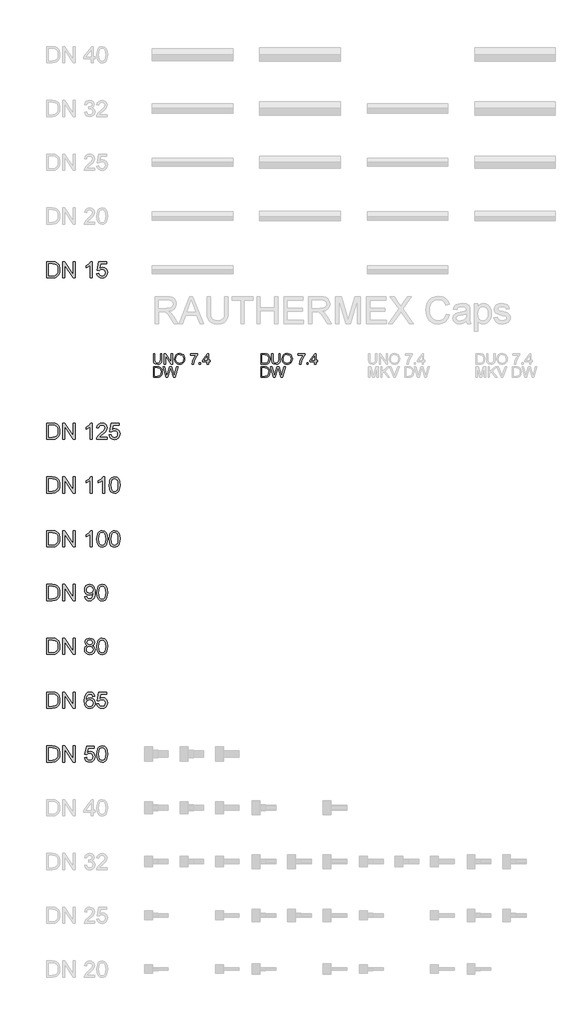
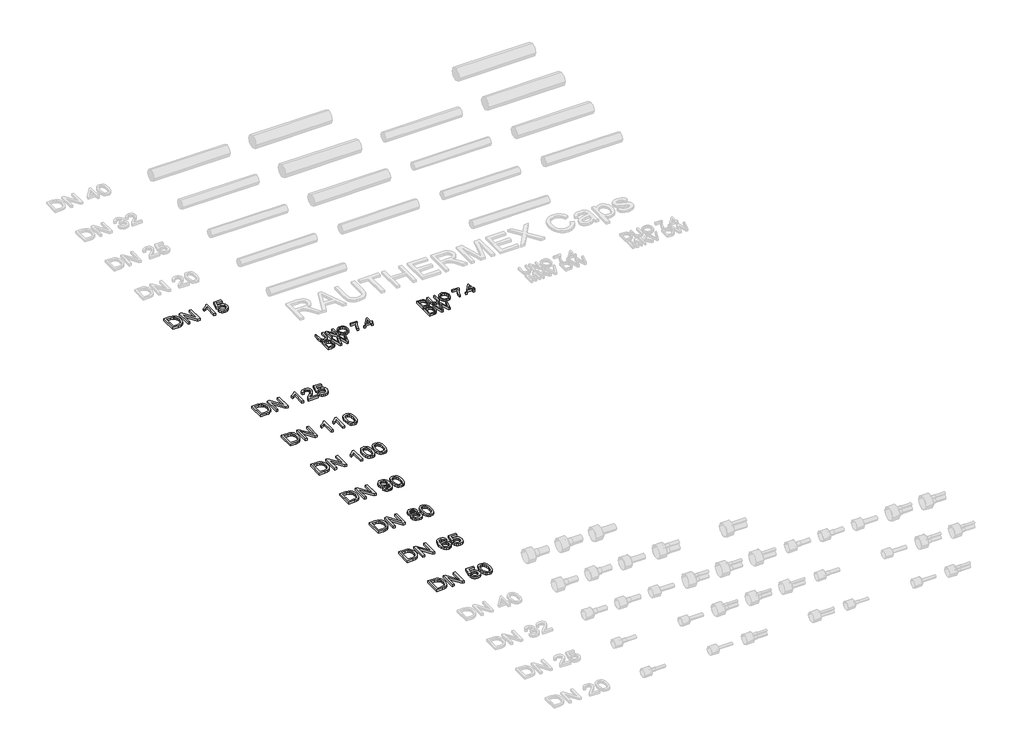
# One storey, part 13 of 44: 10 proxies.
"""IFC4 building model written with IfcOpenShell, lengths in millimetres."""

from ifc_helpers import new_model, si_unit, origin, origin_with_axes, place, context, project, spatial, polyline, outline, extrude, element, save

model = new_model("IFC4")

# Units and contexts
model_context = context("Model", 3, world=origin())
ifc_project = project(units=[si_unit("LENGTHUNIT", "METRE", prefix="MILLI")], contexts=[model_context])

# Site, building, storey
site = spatial("IfcSite", under=ifc_project)
building = spatial("IfcBuilding", under=site)
storey = spatial("IfcBuildingStorey", under=building, Name="REHAU Starting view", Elevation=0.0)

# Proxies
placement = place(None, origin())
element("IfcBuildingElementProxy", 1, Name="100", ObjectType="100", at=placement, inside=storey, context=model_context, shape_type="SweptSolid", body=[
    extrude(outline(polyline([(1076.9118625, 13222.431128), (1089.4689012, 13222.431128), (1089.4689012, 13164.477451), (1086.0598614, 13140.4547567), (1073.7726028, 13125.9847316), (1063.5086951, 13121.8000739), (1050.4734097, 13120.405188), (1027.529836, 13125.2612303), (1019.8901532, 13131.2055902), (1014.8011189, 13139.3265853), (1010.9874089, 13164.477451), (1010.9874089, 13222.431128), (1023.5444477, 13222.431128), (1023.5444477, 13164.9189094), (1026.0215198, 13145.7767829), (1034.5318566, 13136.2976902), (1049.2961874, 13132.9622268), (1062.067824, 13134.6115644), (1070.5597667, 13139.5595772), (1075.3238385, 13149.1980855), (1076.9118625, 13164.9189094), (1076.9118625, 13222.431128)])), origin_with_axes(), (0.0, 0.0, 1.0), 20.0),
    extrude(outline(polyline([(1111.4437191, 13121.9748178), (1111.4437191, 13222.431128), (1124.8836746, 13222.431128), (1177.3681726, 13142.8459897), (1177.3681726, 13222.431128), (1189.9252114, 13222.431128), (1189.9252114, 13121.9748178), (1176.4852558, 13121.9748178), (1124.0007578, 13201.5844816), (1124.0007578, 13121.9748178), (1111.4437191, 13121.9748178)])), origin_with_axes(), (0.0, 0.0, 1.0), 20.0),
    extrude(outline(polyline([(1207.1911397, 13170.8785977), (1210.5388658, 13193.0925389), (1220.5820443, 13209.8986147), (1235.9165921, 13220.4752221), (1255.1384264, 13224.0007578), (1268.3147332, 13222.3452889), (1280.1298766, 13217.3788819), (1289.9400631, 13209.4510249), (1297.1014993, 13198.9112058), (1301.479295, 13186.2683279), (1302.9385603, 13172.0312947), (1301.402653, 13157.6041891), (1296.794931, 13144.7835015), (1289.369846, 13134.2252883), (1279.3818499, 13126.5856055), (1267.667874, 13121.9502924), (1255.06485, 13120.405188), (1241.6862081, 13122.1127736), (1229.8036197, 13127.2355304), (1220.0179586, 13135.3105402), (1212.9300988, 13145.8748848), (1207.1911397, 13170.8785977)]), holes=[polyline([(1219.7481785, 13170.7559704), (1222.2589731, 13155.0412778), (1229.7913569, 13143.0667189), (1241.1129253, 13135.4883498), (1254.9912736, 13132.9622268), (1269.071957, 13135.5128753), (1280.4119195, 13143.1648208), (1287.889121, 13155.5072617), (1290.3815215, 13172.1293965), (1286.1140904, 13192.8534156), (1273.6428907, 13206.575414), (1255.2120028, 13211.4437191), (1241.7046022, 13209.0984714), (1230.2205526, 13202.0627282), (1222.366272, 13189.5455433), (1219.7481785, 13170.7559704)])]), origin_with_axes(), (0.0, 0.0, 1.0), 20.0),
    extrude(outline(polyline([(1354.7363452, 13208.3044594), (1354.7363452, 13220.8614981), (1420.6607988, 13220.8614981), (1420.6607988, 13210.7079551), (1401.9601307, 13183.6931539), (1387.6495211, 13149.2716619), (1382.9896824, 13121.9748178), (1370.4326437, 13121.9748178), (1375.4235761, 13150.3017315), (1389.121049, 13182.3197278), (1408.10376, 13208.3044594), (1354.7363452, 13208.3044594)])), origin_with_axes(), (0.0, 0.0, 1.0), 20.0),
    extrude(outline(polyline([(1437.9267271, 13121.9748178), (1437.9267271, 13134.5318566), (1450.4837658, 13134.5318566), (1450.4837658, 13121.9748178), (1437.9267271, 13121.9748178)])), origin_with_axes(), (0.0, 0.0, 1.0), 20.0),
    extrude(outline(polyline([(1511.6993298, 13121.9748178), (1511.6993298, 13145.5192655), (1466.1800643, 13145.5192655), (1466.1800643, 13158.0763043), (1514.8385895, 13220.8614981), (1524.2563686, 13220.8614981), (1524.2563686, 13158.0763043), (1536.8134074, 13158.0763043), (1536.8134074, 13145.5192655), (1524.2563686, 13145.5192655), (1524.2563686, 13121.9748178), (1511.6993298, 13121.9748178)]), holes=[polyline([(1511.6993298, 13158.0763043), (1511.6993298, 13196.8755921), (1481.6311081, 13158.0763043), (1511.6993298, 13158.0763043)])]), origin_with_axes(), (0.0, 0.0, 1.0), 20.0),
    extrude(outline(polyline([(1010.9874089, 13000.0), (1010.9874089, 13100.4563101), (1045.6418929, 13100.4563101), (1063.5700088, 13099.0093076), (1078.3343395, 13091.823346), (1090.2291907, 13074.6555196), (1094.1777908, 13050.7677153), (1091.5045149, 13030.4974174), (1084.6373844, 13015.8679767), (1075.4648599, 13006.756766), (1063.4596442, 13001.7167826), (1047.3096246, 13000.0), (1010.9874089, 13000.0)]), holes=[polyline([(1023.5444477, 13012.5570388), (1045.7645202, 13012.5570388), (1061.9268025, 13014.3719233), (1071.2464797, 13019.4977457), (1078.8861625, 13031.9689454), (1081.620752, 13050.9639191), (1080.2810484, 13064.6491293), (1076.2619376, 13074.7536214), (1063.2266522, 13085.8881831), (1045.4211637, 13087.8992714), (1023.5444477, 13087.8992714), (1023.5444477, 13012.5570388)])]), origin_with_axes(), (0.0, 0.0, 1.0), 20.0),
    extrude(outline(polyline([(1129.4208859, 13000.0), (1102.02594, 13100.4563101), (1114.9753862, 13100.4563101), (1130.8678884, 13034.4337547), (1135.7729817, 13014.0530922), (1141.0214315, 13032.07931), (1160.9361102, 13100.4563101), (1179.59999, 13100.4563101), (1194.0700152, 13050.8903427), (1204.8366949, 13014.0530922), (1209.5946354, 13033.8451436), (1225.6342904, 13100.4563101), (1238.5837366, 13100.4563101), (1211.1642652, 13000.0), (1197.7488351, 13000.0), (1173.6648272, 13077.5004737), (1170.3048383, 13088.3162043), (1166.5279165, 13075.2931817), (1144.5776241, 13000.0), (1129.4208859, 13000.0)])), origin_with_axes(), (0.0, 0.0, 1.0), 20.0),
])
element("IfcBuildingElementProxy", 2, Name="100", ObjectType="100", at=placement, inside=storey, context=model_context, shape_type="SweptSolid", body=[
    extrude(outline(polyline([(2010.9874089, 13121.9748178), (2010.9874089, 13222.431128), (2045.6418929, 13222.431128), (2063.5700088, 13220.9841255), (2078.3343395, 13213.7981638), (2090.2291907, 13196.6303374), (2094.1777908, 13172.7425332), (2091.5045149, 13152.4722352), (2084.6373844, 13137.8427946), (2075.4648599, 13128.7315838), (2063.4596442, 13123.6916005), (2047.3096246, 13121.9748178), (2010.9874089, 13121.9748178)]), holes=[polyline([(2023.5444477, 13134.5318566), (2045.7645202, 13134.5318566), (2061.9268025, 13136.3467411), (2071.2464797, 13141.4725636), (2078.8861625, 13153.9437632), (2081.620752, 13172.9387369), (2080.2810484, 13186.6239471), (2076.2619376, 13196.7284393), (2063.2266522, 13207.863001), (2045.4211637, 13209.8740892), (2023.5444477, 13209.8740892), (2023.5444477, 13134.5318566)])]), origin_with_axes(), (0.0, 0.0, 1.0), 20.0),
    extrude(outline(polyline([(2177.3681726, 13222.431128), (2189.9252114, 13222.431128), (2189.9252114, 13164.477451), (2186.5161716, 13140.4547567), (2174.2289129, 13125.9847316), (2163.9650053, 13121.8000739), (2150.9297199, 13120.405188), (2127.9861461, 13125.2612303), (2120.3464634, 13131.2055902), (2115.2574291, 13139.3265853), (2111.4437191, 13164.477451), (2111.4437191, 13222.431128), (2124.0007578, 13222.431128), (2124.0007578, 13164.9189094), (2126.4778299, 13145.7767829), (2134.9881668, 13136.2976902), (2149.7524975, 13132.9622268), (2162.5241341, 13134.6115644), (2171.0160768, 13139.5595772), (2175.7801487, 13149.1980855), (2177.3681726, 13164.9189094), (2177.3681726, 13222.431128)])), origin_with_axes(), (0.0, 0.0, 1.0), 20.0),
    extrude(outline(polyline([(2207.1911397, 13170.8785977), (2210.5388658, 13193.0925389), (2220.5820443, 13209.8986147), (2235.9165921, 13220.4752221), (2255.1384264, 13224.0007578), (2268.3147332, 13222.3452889), (2280.1298766, 13217.3788819), (2289.9400631, 13209.4510249), (2297.1014993, 13198.9112058), (2301.479295, 13186.2683279), (2302.9385603, 13172.0312947), (2301.402653, 13157.6041891), (2296.794931, 13144.7835015), (2289.369846, 13134.2252883), (2279.3818499, 13126.5856055), (2267.667874, 13121.9502924), (2255.06485, 13120.405188), (2241.6862081, 13122.1127736), (2229.8036197, 13127.2355304), (2220.0179586, 13135.3105402), (2212.9300988, 13145.8748848), (2207.1911397, 13170.8785977)]), holes=[polyline([(2219.7481785, 13170.7559704), (2222.2589731, 13155.0412778), (2229.7913569, 13143.0667189), (2241.1129253, 13135.4883498), (2254.9912736, 13132.9622268), (2269.071957, 13135.5128753), (2280.4119195, 13143.1648208), (2287.889121, 13155.5072617), (2290.3815215, 13172.1293965), (2286.1140904, 13192.8534156), (2273.6428907, 13206.575414), (2255.2120028, 13211.4437191), (2241.7046022, 13209.0984714), (2230.2205526, 13202.0627282), (2222.366272, 13189.5455433), (2219.7481785, 13170.7559704)])]), origin_with_axes(), (0.0, 0.0, 1.0), 20.0),
    extrude(outline(polyline([(2354.7363452, 13208.3044594), (2354.7363452, 13220.8614981), (2420.6607988, 13220.8614981), (2420.6607988, 13210.7079551), (2401.9601307, 13183.6931539), (2387.6495211, 13149.2716619), (2382.9896824, 13121.9748178), (2370.4326437, 13121.9748178), (2375.4235761, 13150.3017315), (2389.121049, 13182.3197278), (2408.10376, 13208.3044594), (2354.7363452, 13208.3044594)])), origin_with_axes(), (0.0, 0.0, 1.0), 20.0),
    extrude(outline(polyline([(2437.9267271, 13121.9748178), (2437.9267271, 13134.5318566), (2450.4837658, 13134.5318566), (2450.4837658, 13121.9748178), (2437.9267271, 13121.9748178)])), origin_with_axes(), (0.0, 0.0, 1.0), 20.0),
    extrude(outline(polyline([(2511.6993298, 13121.9748178), (2511.6993298, 13145.5192655), (2466.1800643, 13145.5192655), (2466.1800643, 13158.0763043), (2514.8385895, 13220.8614981), (2524.2563686, 13220.8614981), (2524.2563686, 13158.0763043), (2536.8134074, 13158.0763043), (2536.8134074, 13145.5192655), (2524.2563686, 13145.5192655), (2524.2563686, 13121.9748178), (2511.6993298, 13121.9748178)]), holes=[polyline([(2511.6993298, 13158.0763043), (2511.6993298, 13196.8755921), (2481.6311081, 13158.0763043), (2511.6993298, 13158.0763043)])]), origin_with_axes(), (0.0, 0.0, 1.0), 20.0),
    extrude(outline(polyline([(2010.9874089, 13000.0), (2010.9874089, 13100.4563101), (2045.6418929, 13100.4563101), (2063.5700088, 13099.0093076), (2078.3343395, 13091.823346), (2090.2291907, 13074.6555196), (2094.1777908, 13050.7677153), (2091.5045149, 13030.4974174), (2084.6373844, 13015.8679767), (2075.4648599, 13006.756766), (2063.4596442, 13001.7167826), (2047.3096246, 13000.0), (2010.9874089, 13000.0)]), holes=[polyline([(2023.5444477, 13012.5570388), (2045.7645202, 13012.5570388), (2061.9268025, 13014.3719233), (2071.2464797, 13019.4977457), (2078.8861625, 13031.9689454), (2081.620752, 13050.9639191), (2080.2810484, 13064.6491293), (2076.2619376, 13074.7536214), (2063.2266522, 13085.8881831), (2045.4211637, 13087.8992714), (2023.5444477, 13087.8992714), (2023.5444477, 13012.5570388)])]), origin_with_axes(), (0.0, 0.0, 1.0), 20.0),
    extrude(outline(polyline([(2129.4208859, 13000.0), (2102.02594, 13100.4563101), (2114.9753862, 13100.4563101), (2130.8678884, 13034.4337547), (2135.7729817, 13014.0530922), (2141.0214315, 13032.07931), (2160.9361102, 13100.4563101), (2179.59999, 13100.4563101), (2194.0700152, 13050.8903427), (2204.8366949, 13014.0530922), (2209.5946354, 13033.8451436), (2225.6342904, 13100.4563101), (2238.5837366, 13100.4563101), (2211.1642652, 13000.0), (2197.7488351, 13000.0), (2173.6648272, 13077.5004737), (2170.3048383, 13088.3162043), (2166.5279165, 13075.2931817), (2144.5776241, 13000.0), (2129.4208859, 13000.0)])), origin_with_axes(), (0.0, 0.0, 1.0), 20.0),
])
element("IfcBuildingElementProxy", 3, Name="150", ObjectType="150", at=placement, inside=storey, context=model_context, shape_type="SweptSolid", body=[
    extrude(outline(polyline([(16.4811134, 13925.0), (16.4811134, 14075.6844652), (68.4628393, 14075.6844652), (95.3550131, 14073.5139615), (117.5015093, 14062.735019), (127.9217668, 14051.2571007), (135.343786, 14036.9832793), (139.7859611, 14020.1894663), (141.2666861, 14001.151573), (137.2567724, 13970.7461261), (126.9560765, 13948.8019651), (113.1972899, 13935.135149), (95.1894663, 13927.575174), (70.9644369, 13925.0), (16.4811134, 13925.0)]), holes=[polyline([(35.3166715, 13943.8355582), (68.6467803, 13943.8355582), (92.8902038, 13946.5578849), (106.8697196, 13954.2466186), (118.3292437, 13972.9534181), (122.431128, 14001.4458786), (120.4215726, 14021.9736939), (114.3929064, 14037.1304321), (105.4855636, 14047.5414926), (94.8399784, 14053.8322747), (68.1317455, 14056.8489071), (35.3166715, 14056.8489071), (35.3166715, 13943.8355582)])]), origin_with_axes(), (0.0, 0.0, 1.0), 20.0),
    extrude(outline(polyline([(167.1655786, 13925.0), (167.1655786, 14075.6844652), (187.3255119, 14075.6844652), (266.0522589, 13956.3067578), (266.0522589, 14075.6844652), (284.8878171, 14075.6844652), (284.8878171, 13925.0), (264.7278837, 13925.0), (186.0011368, 14044.4144956), (186.0011368, 13925.0), (167.1655786, 13925.0)])), origin_with_axes(), (0.0, 0.0, 1.0), 20.0),
    extrude(outline(polyline([(440.2811718, 13925.0), (421.4456137, 13925.0), (421.4456137, 14042.4279329), (403.6033369, 14029.7176099), (383.7744974, 14020.2078604), (383.7744974, 14038.0133489), (411.3840411, 14055.6348965), (428.141066, 14075.6844652), (440.2811718, 14075.6844652), (440.2811718, 13925.0)])), origin_with_axes(), (0.0, 0.0, 1.0), 20.0),
    extrude(outline(polyline([(485.0156224, 13965.0255611), (503.8511806, 13967.3800058), (507.3092713, 13956.072233), (513.3425361, 13947.9742306), (521.9233836, 13943.1043927), (533.0242228, 13941.4811134), (546.525492, 13943.7389891), (556.6422469, 13950.5126164), (562.9606202, 13961.0202459), (565.0667446, 13974.4801284), (563.0939774, 13987.1536631), (557.1756758, 13996.8473537), (547.2658545, 14003.00018), (533.3185284, 14005.0511222), (516.7822327, 14001.7769724), (506.2056254, 13993.2788983), (487.3700672, 13995.6333431), (503.8511806, 14073.3300205), (576.8389684, 14073.3300205), (576.8389684, 14054.4944623), (519.0814952, 14054.4944623), (511.0248795, 14012.9973732), (524.4801635, 14021.1643535), (538.5792409, 14023.8866803), (556.1777959, 14020.511363), (570.7873096, 14010.3854111), (580.6235545, 13994.9527614), (583.9023027, 13975.6573507), (580.9500497, 13956.8217926), (572.0932907, 13940.7085612), (555.1339307, 13927.1613067), (532.9506464, 13922.6455552), (514.4507806, 13925.5472245), (499.7125081, 13934.2522322), (489.6095489, 13947.7489029), (485.0156224, 13965.0255611)])), origin_with_axes(), (0.0, 0.0, 1.0), 20.0),
])
element("IfcBuildingElementProxy", 4, Name="150", ObjectType="150", at=placement, inside=storey, context=model_context, shape_type="SweptSolid", body=[
    extrude(outline(polyline([(16.4811134, 9425.0), (16.4811134, 9575.6844652), (68.4628393, 9575.6844652), (95.3550131, 9573.5139615), (117.5015093, 9562.735019), (127.9217668, 9551.2571007), (135.343786, 9536.9832793), (139.7859611, 9520.1894663), (141.2666861, 9501.151573), (137.2567724, 9470.7461261), (126.9560765, 9448.8019651), (113.1972899, 9435.135149), (95.1894663, 9427.575174), (70.9644369, 9425.0), (16.4811134, 9425.0)]), holes=[polyline([(35.3166715, 9443.8355582), (68.6467803, 9443.8355582), (92.8902038, 9446.5578849), (106.8697196, 9454.2466186), (118.3292437, 9472.9534181), (122.431128, 9501.4458786), (120.4215726, 9521.9736939), (114.3929064, 9537.1304321), (105.4855636, 9547.5414926), (94.8399784, 9553.8322747), (68.1317455, 9556.8489071), (35.3166715, 9556.8489071), (35.3166715, 9443.8355582)])]), origin_with_axes(), (0.0, 0.0, 1.0), 20.0),
    extrude(outline(polyline([(167.1655786, 9425.0), (167.1655786, 9575.6844652), (187.3255119, 9575.6844652), (266.0522589, 9456.3067578), (266.0522589, 9575.6844652), (284.8878171, 9575.6844652), (284.8878171, 9425.0), (264.7278837, 9425.0), (186.0011368, 9544.4144956), (186.0011368, 9425.0), (167.1655786, 9425.0)])), origin_with_axes(), (0.0, 0.0, 1.0), 20.0),
    extrude(outline(polyline([(369.6478288, 9465.0255611), (388.4833869, 9467.3800058), (391.9414777, 9456.072233), (397.9747424, 9447.9742306), (406.5555899, 9443.1043927), (417.6564291, 9441.4811134), (431.1576983, 9443.7389891), (441.2744532, 9450.5126164), (447.5928265, 9461.0202459), (449.6989509, 9474.4801284), (447.7261837, 9487.1536631), (441.8078821, 9496.8473537), (431.8980609, 9503.00018), (417.9507347, 9505.0511222), (401.414439, 9501.7769724), (390.8378317, 9493.2788983), (372.0022735, 9495.6333431), (388.4833869, 9573.3300205), (461.4711747, 9573.3300205), (461.4711747, 9554.4944623), (403.7137015, 9554.4944623), (395.6570858, 9512.9973732), (409.1123698, 9521.1643535), (423.2114473, 9523.8866803), (440.8100022, 9520.511363), (455.4195159, 9510.3854111), (465.2557608, 9494.9527614), (468.5345091, 9475.6573507), (465.582256, 9456.8217926), (456.725497, 9440.7085612), (439.766137, 9427.1613067), (417.5828527, 9422.6455552), (399.0829869, 9425.5472245), (384.3447145, 9434.2522322), (374.2417552, 9447.7489029), (369.6478288, 9465.0255611)])), origin_with_axes(), (0.0, 0.0, 1.0), 20.0),
    extrude(outline(polyline([(485.0156224, 9499.128222), (486.3997784, 9523.2474853), (490.5522465, 9542.4831152), (497.4316398, 9557.1294171), (506.9965717, 9567.4806967), (519.31602, 9573.6335231), (534.4589626, 9575.6844652), (556.4583059, 9570.8284229), (571.6518323, 9556.830513), (580.4810002, 9534.5368641), (583.9023027, 9499.128222), (582.5319423, 9475.1469145), (578.420861, 9455.9572699), (571.5828544, 9441.2971724), (562.0317181, 9430.904506), (549.6846787, 9424.7102929), (534.4589626, 9422.6455552), (514.8876404, 9426.2324047), (500.0252078, 9436.992953), (488.7680188, 9462.4779783), (485.0156224, 9499.128222)]), holes=[polyline([(503.8511806, 9499.1650102), (506.0584726, 9469.536714), (512.6803485, 9452.3888145), (522.5395859, 9444.2080387), (534.4589626, 9441.4811134), (546.3783392, 9444.2172357), (556.2375767, 9452.4256027), (562.8594526, 9469.5826993), (565.0667446, 9499.1650102), (562.933029, 9528.1265203), (556.5318823, 9545.407777), (546.6910389, 9553.9886246), (534.2382334, 9556.8489071), (522.4476155, 9554.3289154), (512.9746541, 9546.7689404), (506.132049, 9528.4116288), (503.8511806, 9499.1650102)])]), origin_with_axes(), (0.0, 0.0, 1.0), 20.0),
])
element("IfcBuildingElementProxy", 5, Name="150", ObjectType="150", at=placement, inside=storey, context=model_context, shape_type="SweptSolid", body=[
    extrude(outline(polyline([(16.4811134, 9925.0), (16.4811134, 10075.6844652), (68.4628393, 10075.6844652), (95.3550131, 10073.5139615), (117.5015093, 10062.735019), (127.9217668, 10051.2571007), (135.343786, 10036.9832793), (139.7859611, 10020.1894663), (141.2666861, 10001.151573), (137.2567724, 9970.7461261), (126.9560765, 9948.8019651), (113.1972899, 9935.135149), (95.1894663, 9927.575174), (70.9644369, 9925.0), (16.4811134, 9925.0)]), holes=[polyline([(35.3166715, 9943.8355582), (68.6467803, 9943.8355582), (92.8902038, 9946.5578849), (106.8697196, 9954.2466186), (118.3292437, 9972.9534181), (122.431128, 10001.4458786), (120.4215726, 10021.9736939), (114.3929064, 10037.1304321), (105.4855636, 10047.5414926), (94.8399784, 10053.8322747), (68.1317455, 10056.8489071), (35.3166715, 10056.8489071), (35.3166715, 9943.8355582)])]), origin_with_axes(), (0.0, 0.0, 1.0), 20.0),
    extrude(outline(polyline([(167.1655786, 9925.0), (167.1655786, 10075.6844652), (187.3255119, 10075.6844652), (266.0522589, 9956.3067578), (266.0522589, 10075.6844652), (284.8878171, 10075.6844652), (284.8878171, 9925.0), (264.7278837, 9925.0), (186.0011368, 10044.4144956), (186.0011368, 9925.0), (167.1655786, 9925.0)])), origin_with_axes(), (0.0, 0.0, 1.0), 20.0),
    extrude(outline(polyline([(466.1800643, 10035.6589041), (447.3445061, 10033.3044594), (440.2075954, 10049.0130206), (431.6635361, 10054.8899354), (421.3352491, 10056.8489071), (404.3391009, 10052.2871703), (391.4816252, 10035.1622635), (387.5774775, 10021.1321639), (386.1289421, 10001.5930314), (402.7388142, 10016.6210109), (423.3218118, 10021.5322355), (440.7226302, 10018.1753123), (455.3275454, 10008.1045427), (465.2327682, 9992.7178783), (468.5345091, 9973.4132706), (466.9802076, 9959.9257969), (462.3173033, 9947.4224076), (454.9320723, 9936.8182091), (445.2107906, 9929.0283078), (433.5949166, 9924.2412434), (420.5259087, 9922.6455552), (399.1565633, 9926.8761982), (382.1374225, 9939.568127), (371.0043936, 9961.9721405), (367.293384, 9995.3390375), (371.4136623, 10032.8538039), (383.7744974, 10058.504376), (400.6510839, 10071.3894429), (422.5124715, 10075.6844652), (439.0395701, 10073.0265178), (452.2741249, 10065.0526756), (461.5447511, 10052.3883379), (466.1800643, 10035.6589041)]), holes=[polyline([(386.1289421, 9973.7075762), (390.4883438, 9957.3920097), (402.0766266, 9945.5462094), (419.0543807, 9941.4811134), (431.4841936, 9943.5872378), (441.2560591, 9949.9056111), (447.588228, 9959.8384249), (449.6989509, 9972.7878712), (447.6158191, 9985.2176841), (441.3664237, 9994.695244), (431.4290113, 10000.696319), (418.2818285, 10002.6966774), (405.8704097, 10000.696319), (395.4915389, 9994.695244), (388.4695913, 9985.4476103), (386.1289421, 9973.7075762)])]), origin_with_axes(), (0.0, 0.0, 1.0), 20.0),
    extrude(outline(polyline([(485.0156224, 9965.0255611), (503.8511806, 9967.3800058), (507.3092713, 9956.072233), (513.3425361, 9947.9742306), (521.9233836, 9943.1043927), (533.0242228, 9941.4811134), (546.525492, 9943.7389891), (556.6422469, 9950.5126164), (562.9606202, 9961.0202459), (565.0667446, 9974.4801284), (563.0939774, 9987.1536631), (557.1756758, 9996.8473537), (547.2658545, 10003.00018), (533.3185284, 10005.0511222), (516.7822327, 10001.7769724), (506.2056254, 9993.2788983), (487.3700672, 9995.6333431), (503.8511806, 10073.3300205), (576.8389684, 10073.3300205), (576.8389684, 10054.4944623), (519.0814952, 10054.4944623), (511.0248795, 10012.9973732), (524.4801635, 10021.1643535), (538.5792409, 10023.8866803), (556.1777959, 10020.511363), (570.7873096, 10010.3854111), (580.6235545, 9994.9527614), (583.9023027, 9975.6573507), (580.9500497, 9956.8217926), (572.0932907, 9940.7085612), (555.1339307, 9927.1613067), (532.9506464, 9922.6455552), (514.4507806, 9925.5472245), (499.7125081, 9934.2522322), (489.6095489, 9947.7489029), (485.0156224, 9965.0255611)])), origin_with_axes(), (0.0, 0.0, 1.0), 20.0),
])
element("IfcBuildingElementProxy", 6, Name="150", ObjectType="150", at=placement, inside=storey, context=model_context, shape_type="SweptSolid", body=[
    extrude(outline(polyline([(16.4811134, 10425.0), (16.4811134, 10575.6844652), (68.4628393, 10575.6844652), (95.3550131, 10573.5139615), (117.5015093, 10562.735019), (127.9217668, 10551.2571007), (135.343786, 10536.9832793), (139.7859611, 10520.1894663), (141.2666861, 10501.151573), (137.2567724, 10470.7461261), (126.9560765, 10448.8019651), (113.1972899, 10435.135149), (95.1894663, 10427.575174), (70.9644369, 10425.0), (16.4811134, 10425.0)]), holes=[polyline([(35.3166715, 10443.8355582), (68.6467803, 10443.8355582), (92.8902038, 10446.5578849), (106.8697196, 10454.2466186), (118.3292437, 10472.9534181), (122.431128, 10501.4458786), (120.4215726, 10521.9736939), (114.3929064, 10537.1304321), (105.4855636, 10547.5414926), (94.8399784, 10553.8322747), (68.1317455, 10556.8489071), (35.3166715, 10556.8489071), (35.3166715, 10443.8355582)])]), origin_with_axes(), (0.0, 0.0, 1.0), 20.0),
    extrude(outline(polyline([(167.1655786, 10425.0), (167.1655786, 10575.6844652), (187.3255119, 10575.6844652), (266.0522589, 10456.3067578), (266.0522589, 10575.6844652), (284.8878171, 10575.6844652), (284.8878171, 10425.0), (264.7278837, 10425.0), (186.0011368, 10544.4144956), (186.0011368, 10425.0), (167.1655786, 10425.0)])), origin_with_axes(), (0.0, 0.0, 1.0), 20.0),
    extrude(outline(polyline([(397.0918256, 10507.9941781), (379.9301305, 10519.6928256), (374.3567183, 10537.9029843), (377.3917448, 10552.6274612), (386.4968241, 10564.7951582), (400.6510839, 10572.9621385), (418.8336515, 10575.6844652), (437.1265837, 10572.8977591), (451.4647845, 10564.5376408), (460.7354108, 10552.1768057), (463.8256195, 10537.3879495), (458.3257837, 10519.6376433), (441.6423352, 10507.9941781), (453.2352166, 10502.0206942), (461.6735098, 10493.223716), (466.8192593, 10482.0263078), (468.5345091, 10468.8515338), (465.1316006, 10450.8437102), (454.9228752, 10435.9628835), (439.1591317, 10425.9748873), (419.0911689, 10422.6455552), (399.0232061, 10425.9886829), (383.2594626, 10436.0180658), (373.0507372, 10451.0414467), (369.6478288, 10469.3665686), (371.4320564, 10483.0517788), (376.7847395, 10494.3089679), (385.4299663, 10502.7518597), (397.0918256, 10507.9941781)]), holes=[polyline([(393.1922764, 10537.3511613), (394.861541, 10529.1289987), (399.8693347, 10522.5623051), (408.0685046, 10518.2580858), (419.3118981, 10516.823346), (430.2931757, 10518.2488887), (438.3681855, 10522.5255169), (443.3345924, 10528.8714813), (444.9900614, 10536.5050327), (443.2794101, 10544.4282912), (438.1474563, 10550.9811892), (429.9620819, 10555.3819776), (419.0911689, 10556.8489071), (408.1512781, 10555.4141673), (399.9796993, 10551.1099479), (394.8891321, 10544.8007717), (393.1922764, 10537.3511613)]), polyline([(388.4833869, 10470.0287562), (391.628778, 10455.8469053), (402.7572083, 10445.2335097), (419.2383217, 10441.4811134), (432.0590092, 10443.4538806), (441.6791234, 10449.3721822), (447.693994, 10458.3347073), (449.6989509, 10469.440145), (447.6296147, 10480.7341223), (441.421606, 10489.8943839), (431.5807626, 10495.9644369), (418.6129223, 10497.9877878), (405.9715773, 10495.992028), (396.4480321, 10490.0047485), (390.4745482, 10481.0192308), (388.4833869, 10470.0287562)])]), origin_with_axes(), (0.0, 0.0, 1.0), 20.0),
    extrude(outline(polyline([(485.0156224, 10499.128222), (486.3997784, 10523.2474853), (490.5522465, 10542.4831152), (497.4316398, 10557.1294171), (506.9965717, 10567.4806967), (519.31602, 10573.6335231), (534.4589626, 10575.6844652), (556.4583059, 10570.8284229), (571.6518323, 10556.830513), (580.4810002, 10534.5368641), (583.9023027, 10499.128222), (582.5319423, 10475.1469145), (578.420861, 10455.9572699), (571.5828544, 10441.2971724), (562.0317181, 10430.904506), (549.6846787, 10424.7102929), (534.4589626, 10422.6455552), (514.8876404, 10426.2324047), (500.0252078, 10436.992953), (488.7680188, 10462.4779783), (485.0156224, 10499.128222)]), holes=[polyline([(503.8511806, 10499.1650102), (506.0584726, 10469.536714), (512.6803485, 10452.3888145), (522.5395859, 10444.2080387), (534.4589626, 10441.4811134), (546.3783392, 10444.2172357), (556.2375767, 10452.4256027), (562.8594526, 10469.5826993), (565.0667446, 10499.1650102), (562.933029, 10528.1265203), (556.5318823, 10545.407777), (546.6910389, 10553.9886246), (534.2382334, 10556.8489071), (522.4476155, 10554.3289154), (512.9746541, 10546.7689404), (506.132049, 10528.4116288), (503.8511806, 10499.1650102)])]), origin_with_axes(), (0.0, 0.0, 1.0), 20.0),
])
element("IfcBuildingElementProxy", 7, Name="150", ObjectType="150", at=placement, inside=storey, context=model_context, shape_type="SweptSolid", body=[
    extrude(outline(polyline([(16.4811134, 10925.0), (16.4811134, 11075.6844652), (68.4628393, 11075.6844652), (95.3550131, 11073.5139615), (117.5015093, 11062.735019), (127.9217668, 11051.2571007), (135.343786, 11036.9832793), (139.7859611, 11020.1894663), (141.2666861, 11001.151573), (137.2567724, 10970.7461261), (126.9560765, 10948.8019651), (113.1972899, 10935.135149), (95.1894663, 10927.575174), (70.9644369, 10925.0), (16.4811134, 10925.0)]), holes=[polyline([(35.3166715, 10943.8355582), (68.6467803, 10943.8355582), (92.8902038, 10946.5578849), (106.8697196, 10954.2466186), (118.3292437, 10972.9534181), (122.431128, 11001.4458786), (120.4215726, 11021.9736939), (114.3929064, 11037.1304321), (105.4855636, 11047.5414926), (94.8399784, 11053.8322747), (68.1317455, 11056.8489071), (35.3166715, 11056.8489071), (35.3166715, 10943.8355582)])]), origin_with_axes(), (0.0, 0.0, 1.0), 20.0),
    extrude(outline(polyline([(167.1655786, 10925.0), (167.1655786, 11075.6844652), (187.3255119, 11075.6844652), (266.0522589, 10956.3067578), (266.0522589, 11075.6844652), (284.8878171, 11075.6844652), (284.8878171, 10925.0), (264.7278837, 10925.0), (186.0011368, 11044.4144956), (186.0011368, 10925.0), (167.1655786, 10925.0)])), origin_with_axes(), (0.0, 0.0, 1.0), 20.0),
    extrude(outline(polyline([(372.0022735, 10962.6711163), (390.8378317, 10965.0255611), (394.0567991, 10954.3339906), (399.2991176, 10947.0545256), (406.4360283, 10942.8744664), (415.3387726, 10941.4811134), (430.5874813, 10945.0679628), (440.9249653, 10954.6512888), (447.0869887, 10971.0220376), (449.8093155, 10992.8742281), (449.6989509, 10996.5530481), (434.6341832, 10982.2792266), (413.9776092, 10976.7977849), (396.8021185, 10980.1455111), (382.5053045, 10990.1886895), (372.8621977, 11005.7041127), (369.6478288, 11025.4685729), (373.0185475, 11045.8860236), (383.1307039, 11061.8888904), (398.3196318, 11072.2355715), (416.9206651, 11075.6844652), (430.9691588, 11073.7162966), (443.7576567, 11067.8117905), (454.4538257, 11058.2652528), (462.2253328, 11045.3709888), (466.957215, 11027.5471062), (468.5345091, 11003.2117122), (466.9618135, 10977.4093887), (462.2437269, 10957.4655861), (454.421636, 10942.4789933), (443.5369275, 10931.5482995), (430.0586509, 10924.8712413), (414.4558558, 10922.6455552), (398.3518214, 10925.271313), (385.5035427, 10933.1485862), (376.518025, 10945.7807342), (372.0022735, 10962.6711163)]), holes=[polyline([(449.6989509, 11025.9100313), (447.6664029, 11038.6755365), (441.5687588, 11048.4979858), (432.1049945, 11054.7611767), (419.9740857, 11056.8489071), (407.3925215, 11054.6002284), (397.3125548, 11047.8541923), (390.6906789, 11037.5305038), (388.4833869, 11024.5488679), (390.5711172, 11012.9100013), (396.8343082, 11003.6715647), (406.6659545, 10997.6428985), (419.4590509, 10995.6333431), (431.4933907, 10997.6428985), (441.1824827, 11003.6715647), (447.5698339, 11013.2502921), (449.6989509, 11025.9100313)])]), origin_with_axes(), (0.0, 0.0, 1.0), 20.0),
    extrude(outline(polyline([(485.0156224, 10999.128222), (486.3997784, 11023.2474853), (490.5522465, 11042.4831152), (497.4316398, 11057.1294171), (506.9965717, 11067.4806967), (519.31602, 11073.6335231), (534.4589626, 11075.6844652), (556.4583059, 11070.8284229), (571.6518323, 11056.830513), (580.4810002, 11034.5368641), (583.9023027, 10999.128222), (582.5319423, 10975.1469145), (578.420861, 10955.9572699), (571.5828544, 10941.2971724), (562.0317181, 10930.904506), (549.6846787, 10924.7102929), (534.4589626, 10922.6455552), (514.8876404, 10926.2324047), (500.0252078, 10936.992953), (488.7680188, 10962.4779783), (485.0156224, 10999.128222)]), holes=[polyline([(503.8511806, 10999.1650102), (506.0584726, 10969.536714), (512.6803485, 10952.3888145), (522.5395859, 10944.2080387), (534.4589626, 10941.4811134), (546.3783392, 10944.2172357), (556.2375767, 10952.4256027), (562.8594526, 10969.5826993), (565.0667446, 10999.1650102), (562.933029, 11028.1265203), (556.5318823, 11045.407777), (546.6910389, 11053.9886246), (534.2382334, 11056.8489071), (522.4476155, 11054.3289154), (512.9746541, 11046.7689404), (506.132049, 11028.4116288), (503.8511806, 10999.1650102)])]), origin_with_axes(), (0.0, 0.0, 1.0), 20.0),
])
element("IfcBuildingElementProxy", 8, Name="150", ObjectType="150", at=placement, inside=storey, context=model_context, shape_type="SweptSolid", body=[
    extrude(outline(polyline([(16.4811134, 11425.0), (16.4811134, 11575.6844652), (68.4628393, 11575.6844652), (95.3550131, 11573.5139615), (117.5015093, 11562.735019), (127.9217668, 11551.2571007), (135.343786, 11536.9832793), (139.7859611, 11520.1894663), (141.2666861, 11501.151573), (137.2567724, 11470.7461261), (126.9560765, 11448.8019651), (113.1972899, 11435.135149), (95.1894663, 11427.575174), (70.9644369, 11425.0), (16.4811134, 11425.0)]), holes=[polyline([(35.3166715, 11443.8355582), (68.6467803, 11443.8355582), (92.8902038, 11446.5578849), (106.8697196, 11454.2466186), (118.3292437, 11472.9534181), (122.431128, 11501.4458786), (120.4215726, 11521.9736939), (114.3929064, 11537.1304321), (105.4855636, 11547.5414926), (94.8399784, 11553.8322747), (68.1317455, 11556.8489071), (35.3166715, 11556.8489071), (35.3166715, 11443.8355582)])]), origin_with_axes(), (0.0, 0.0, 1.0), 20.0),
    extrude(outline(polyline([(167.1655786, 11425.0), (167.1655786, 11575.6844652), (187.3255119, 11575.6844652), (266.0522589, 11456.3067578), (266.0522589, 11575.6844652), (284.8878171, 11575.6844652), (284.8878171, 11425.0), (264.7278837, 11425.0), (186.0011368, 11544.4144956), (186.0011368, 11425.0), (167.1655786, 11425.0)])), origin_with_axes(), (0.0, 0.0, 1.0), 20.0),
    extrude(outline(polyline([(440.2811718, 11425.0), (421.4456137, 11425.0), (421.4456137, 11542.4279329), (403.6033369, 11529.7176099), (383.7744974, 11520.2078604), (383.7744974, 11538.0133489), (411.3840411, 11555.6348965), (428.141066, 11575.6844652), (440.2811718, 11575.6844652), (440.2811718, 11425.0)])), origin_with_axes(), (0.0, 0.0, 1.0), 20.0),
    extrude(outline(polyline([(485.0156224, 11499.128222), (486.3997784, 11523.2474853), (490.5522465, 11542.4831152), (497.4316398, 11557.1294171), (506.9965717, 11567.4806967), (519.31602, 11573.6335231), (534.4589626, 11575.6844652), (556.4583059, 11570.8284229), (571.6518323, 11556.830513), (580.4810002, 11534.5368641), (583.9023027, 11499.128222), (582.5319423, 11475.1469145), (578.420861, 11455.9572699), (571.5828544, 11441.2971724), (562.0317181, 11430.904506), (549.6846787, 11424.7102929), (534.4589626, 11422.6455552), (514.8876404, 11426.2324047), (500.0252078, 11436.992953), (488.7680188, 11462.4779783), (485.0156224, 11499.128222)]), holes=[polyline([(503.8511806, 11499.1650102), (506.0584726, 11469.536714), (512.6803485, 11452.3888145), (522.5395859, 11444.2080387), (534.4589626, 11441.4811134), (546.3783392, 11444.2172357), (556.2375767, 11452.4256027), (562.8594526, 11469.5826993), (565.0667446, 11499.1650102), (562.933029, 11528.1265203), (556.5318823, 11545.407777), (546.6910389, 11553.9886246), (534.2382334, 11556.8489071), (522.4476155, 11554.3289154), (512.9746541, 11546.7689404), (506.132049, 11528.4116288), (503.8511806, 11499.1650102)])]), origin_with_axes(), (0.0, 0.0, 1.0), 20.0),
    extrude(outline(polyline([(600.3834161, 11499.128222), (601.7675721, 11523.2474853), (605.9200402, 11542.4831152), (612.7994335, 11557.1294171), (622.3643653, 11567.4806967), (634.6838137, 11573.6335231), (649.8267563, 11575.6844652), (671.8260996, 11570.8284229), (687.019626, 11556.830513), (695.8487939, 11534.5368641), (699.2700964, 11499.128222), (697.899736, 11475.1469145), (693.7886547, 11455.9572699), (686.9506481, 11441.2971724), (677.3995118, 11430.904506), (665.0524724, 11424.7102929), (649.8267563, 11422.6455552), (630.2554341, 11426.2324047), (615.3930015, 11436.992953), (604.1358125, 11462.4779783), (600.3834161, 11499.128222)]), holes=[polyline([(619.2189743, 11499.1650102), (621.4262663, 11469.536714), (628.0481422, 11452.3888145), (637.9073796, 11444.2080387), (649.8267563, 11441.4811134), (661.7461329, 11444.2172357), (671.6053704, 11452.4256027), (678.2272463, 11469.5826993), (680.4345383, 11499.1650102), (678.3008227, 11528.1265203), (671.899676, 11545.407777), (662.0588326, 11553.9886246), (649.6060271, 11556.8489071), (637.8154091, 11554.3289154), (628.3424478, 11546.7689404), (621.4998427, 11528.4116288), (619.2189743, 11499.1650102)])]), origin_with_axes(), (0.0, 0.0, 1.0), 20.0),
])
element("IfcBuildingElementProxy", 9, Name="150", ObjectType="150", at=placement, inside=storey, context=model_context, shape_type="SweptSolid", body=[
    extrude(outline(polyline([(16.4811134, 11925.0), (16.4811134, 12075.6844652), (68.4628393, 12075.6844652), (95.3550131, 12073.5139615), (117.5015093, 12062.735019), (127.9217668, 12051.2571007), (135.343786, 12036.9832793), (139.7859611, 12020.1894663), (141.2666861, 12001.151573), (137.2567724, 11970.7461261), (126.9560765, 11948.8019651), (113.1972899, 11935.135149), (95.1894663, 11927.575174), (70.9644369, 11925.0), (16.4811134, 11925.0)]), holes=[polyline([(35.3166715, 11943.8355582), (68.6467803, 11943.8355582), (92.8902038, 11946.5578849), (106.8697196, 11954.2466186), (118.3292437, 11972.9534181), (122.431128, 12001.4458786), (120.4215726, 12021.9736939), (114.3929064, 12037.1304321), (105.4855636, 12047.5414926), (94.8399784, 12053.8322747), (68.1317455, 12056.8489071), (35.3166715, 12056.8489071), (35.3166715, 11943.8355582)])]), origin_with_axes(), (0.0, 0.0, 1.0), 20.0),
    extrude(outline(polyline([(167.1655786, 11925.0), (167.1655786, 12075.6844652), (187.3255119, 12075.6844652), (266.0522589, 11956.3067578), (266.0522589, 12075.6844652), (284.8878171, 12075.6844652), (284.8878171, 11925.0), (264.7278837, 11925.0), (186.0011368, 12044.4144956), (186.0011368, 11925.0), (167.1655786, 11925.0)])), origin_with_axes(), (0.0, 0.0, 1.0), 20.0),
    extrude(outline(polyline([(440.2811718, 11925.0), (421.4456137, 11925.0), (421.4456137, 12042.4279329), (403.6033369, 12029.7176099), (383.7744974, 12020.2078604), (383.7744974, 12038.0133489), (411.3840411, 12055.6348965), (428.141066, 12075.6844652), (440.2811718, 12075.6844652), (440.2811718, 11925.0)])), origin_with_axes(), (0.0, 0.0, 1.0), 20.0),
    extrude(outline(polyline([(555.6489655, 11925.0), (536.8134074, 11925.0), (536.8134074, 12042.4279329), (518.9711306, 12029.7176099), (499.1422911, 12020.2078604), (499.1422911, 12038.0133489), (526.7518348, 12055.6348965), (543.5088597, 12075.6844652), (555.6489655, 12075.6844652), (555.6489655, 11925.0)])), origin_with_axes(), (0.0, 0.0, 1.0), 20.0),
    extrude(outline(polyline([(600.3834161, 11999.128222), (601.7675721, 12023.2474853), (605.9200402, 12042.4831152), (612.7994335, 12057.1294171), (622.3643653, 12067.4806967), (634.6838137, 12073.6335231), (649.8267563, 12075.6844652), (671.8260996, 12070.8284229), (687.019626, 12056.830513), (695.8487939, 12034.5368641), (699.2700964, 11999.128222), (697.899736, 11975.1469145), (693.7886547, 11955.9572699), (686.9506481, 11941.2971724), (677.3995118, 11930.904506), (665.0524724, 11924.7102929), (649.8267563, 11922.6455552), (630.2554341, 11926.2324047), (615.3930015, 11936.992953), (604.1358125, 11962.4779783), (600.3834161, 11999.128222)]), holes=[polyline([(619.2189743, 11999.1650102), (621.4262663, 11969.536714), (628.0481422, 11952.3888145), (637.9073796, 11944.2080387), (649.8267563, 11941.4811134), (661.7461329, 11944.2172357), (671.6053704, 11952.4256027), (678.2272463, 11969.5826993), (680.4345383, 11999.1650102), (678.3008227, 12028.1265203), (671.899676, 12045.407777), (662.0588326, 12053.9886246), (649.6060271, 12056.8489071), (637.8154091, 12054.3289154), (628.3424478, 12046.7689404), (621.4998427, 12028.4116288), (619.2189743, 11999.1650102)])]), origin_with_axes(), (0.0, 0.0, 1.0), 20.0),
])
element("IfcBuildingElementProxy", 10, Name="150", ObjectType="150", at=placement, inside=storey, context=model_context, shape_type="SweptSolid", body=[
    extrude(outline(polyline([(16.4811134, 12425.0), (16.4811134, 12575.6844652), (68.4628393, 12575.6844652), (95.3550131, 12573.5139615), (117.5015093, 12562.735019), (127.9217668, 12551.2571007), (135.343786, 12536.9832793), (139.7859611, 12520.1894663), (141.2666861, 12501.151573), (137.2567724, 12470.7461261), (126.9560765, 12448.8019651), (113.1972899, 12435.135149), (95.1894663, 12427.575174), (70.9644369, 12425.0), (16.4811134, 12425.0)]), holes=[polyline([(35.3166715, 12443.8355582), (68.6467803, 12443.8355582), (92.8902038, 12446.5578849), (106.8697196, 12454.2466186), (118.3292437, 12472.9534181), (122.431128, 12501.4458786), (120.4215726, 12521.9736939), (114.3929064, 12537.1304321), (105.4855636, 12547.5414926), (94.8399784, 12553.8322747), (68.1317455, 12556.8489071), (35.3166715, 12556.8489071), (35.3166715, 12443.8355582)])]), origin_with_axes(), (0.0, 0.0, 1.0), 20.0),
    extrude(outline(polyline([(167.1655786, 12425.0), (167.1655786, 12575.6844652), (187.3255119, 12575.6844652), (266.0522589, 12456.3067578), (266.0522589, 12575.6844652), (284.8878171, 12575.6844652), (284.8878171, 12425.0), (264.7278837, 12425.0), (186.0011368, 12544.4144956), (186.0011368, 12425.0), (167.1655786, 12425.0)])), origin_with_axes(), (0.0, 0.0, 1.0), 20.0),
    extrude(outline(polyline([(440.2811718, 12425.0), (421.4456137, 12425.0), (421.4456137, 12542.4279329), (403.6033369, 12529.7176099), (383.7744974, 12520.2078604), (383.7744974, 12538.0133489), (411.3840411, 12555.6348965), (428.141066, 12575.6844652), (440.2811718, 12575.6844652), (440.2811718, 12425.0)])), origin_with_axes(), (0.0, 0.0, 1.0), 20.0),
    extrude(outline(polyline([(581.547858, 12443.8355582), (581.547858, 12425.0), (482.6611777, 12425.0), (484.6845286, 12437.9862344), (496.1256587, 12457.9806209), (519.7068946, 12479.8144173), (552.227663, 12511.1947515), (558.325307, 12522.0104821), (560.3578551, 12532.5319072), (558.4402702, 12541.9634818), (552.6875155, 12549.8039669), (543.844552, 12555.087672), (532.6563408, 12556.8489071), (520.9071096, 12555.1290587), (511.7790376, 12549.9695138), (505.8883271, 12541.7749423), (503.8511806, 12530.9500146), (485.0156224, 12533.3044594), (489.5819577, 12551.5238152), (499.4549908, 12564.8319464), (514.1196868, 12572.9713355), (533.061011, 12575.6844652), (552.140291, 12572.6678329), (566.7773959, 12563.6179358), (576.0894089, 12550.0982725), (579.1934132, 12533.6723414), (575.8456871, 12515.8116705), (564.7172567, 12497.3439944), (537.7331123, 12471.5370724), (516.0648628, 12453.4188841), (507.5667887, 12443.8355582), (581.547858, 12443.8355582)])), origin_with_axes(), (0.0, 0.0, 1.0), 20.0),
    extrude(outline(polyline([(600.3834161, 12465.0255611), (619.2189743, 12467.3800058), (622.677065, 12456.072233), (628.7103298, 12447.9742306), (637.2911773, 12443.1043927), (648.3920165, 12441.4811134), (661.8932857, 12443.7389891), (672.0100406, 12450.5126164), (678.3284139, 12461.0202459), (680.4345383, 12474.4801284), (678.4617711, 12487.1536631), (672.5434695, 12496.8473537), (662.6336482, 12503.00018), (648.6863221, 12505.0511222), (632.1500264, 12501.7769724), (621.5734191, 12493.2788983), (602.7378609, 12495.6333431), (619.2189743, 12573.3300205), (692.2067621, 12573.3300205), (692.2067621, 12554.4944623), (634.4492889, 12554.4944623), (626.3926732, 12512.9973732), (639.8479572, 12521.1643535), (653.9470346, 12523.8866803), (671.5455896, 12520.511363), (686.1551033, 12510.3854111), (695.9913482, 12494.9527614), (699.2700964, 12475.6573507), (696.3178434, 12456.8217926), (687.4610844, 12440.7085612), (670.5017244, 12427.1613067), (648.3184401, 12422.6455552), (629.8185743, 12425.5472245), (615.0803018, 12434.2522322), (604.9773425, 12447.7489029), (600.3834161, 12465.0255611)])), origin_with_axes(), (0.0, 0.0, 1.0), 20.0),
])

save(model, "model.ifc")
